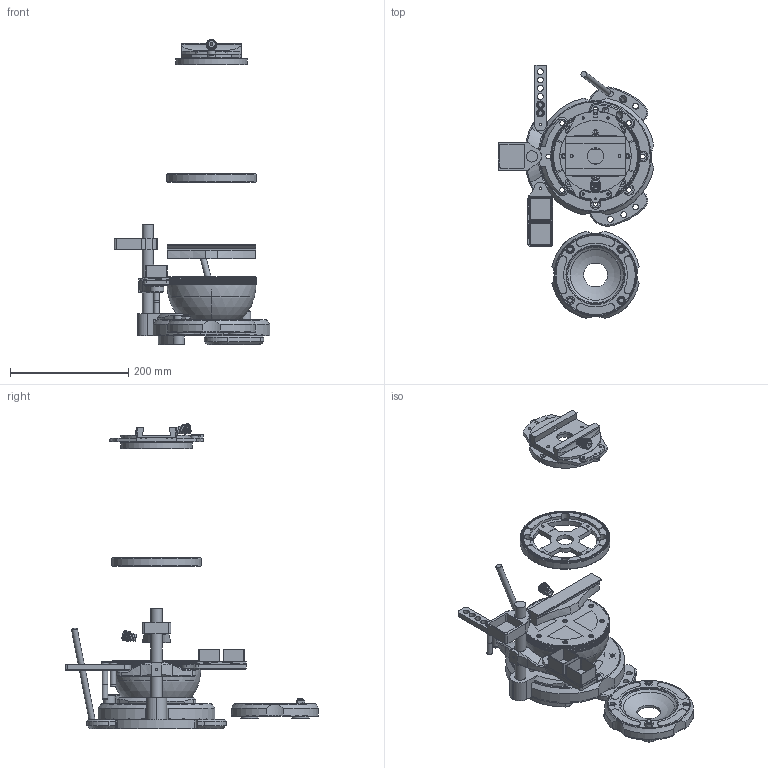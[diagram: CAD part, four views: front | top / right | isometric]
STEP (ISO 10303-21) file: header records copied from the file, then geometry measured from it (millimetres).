
FILE_DESCRIPTION(/* description */ (''),/* implementation_level */ '2;1');
FILE_NAME(/* name */ 'v1.5 step.step',/* time_stamp */ '2024-06-22T13:49:45+09:30',/* author */ (''),/* organization */ (''),/* preprocessor_version */ 'ST-DEVELOPER v20',/* originating_system */ 'Autodesk Translation Framework v13.14.0.145',/* authorisation */ '');
FILE_SCHEMA (('AUTOMOTIVE_DESIGN { 1 0 10303 214 3 1 1 }'));
Length unit declared in the file: millimetre
Products named in the file (1): (Unsaved)
Bounding box: 263.23 x 427.34 x 515.9 mm (x, y, z)
Volume: 2829993.8 mm3; surface area: 871311.3 mm2
Topology: 51 solids, 236 shells, 5788 faces, 12842 edges, 7866 vertices
Faces by surface type: plane 3131, cylinder 1409, bspline 865, sphere 196, torus 94, cone 93
Full cylindrical faces by diameter (mm): 3 x121, 3.5 x2, 4 x6, 4.5 x11, 5 x22, 6 x2, 7 x1, 7.446 x2, 8 x29, 8.5 x43, 8.866 x5, 9.5 x2, 9.7 x6, 10 x12, 10.4 x4, 12 x10, 13 x4, 14 x4, 17.222 x2, 18 x16, 19 x3, 19.6 x1, 20 x1, 21 x1, 28 x3, 30 x4, 40.409 x1, 70 x3, 74 x1, 80 x1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
Entity records: 178635 total; most frequent: CARTESIAN_POINT 56212, ORIENTED_EDGE 25684, DIRECTION 23267, EDGE_CURVE 12842, AXIS2_PLACEMENT_3D 8431, VERTEX_POINT 7866, EDGE_LOOP 6448, LINE 6405
